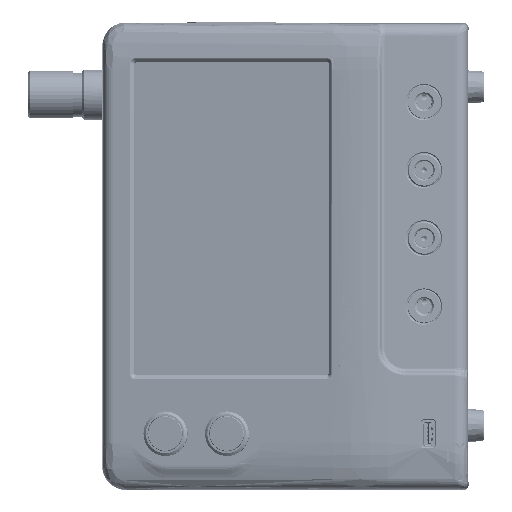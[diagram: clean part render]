
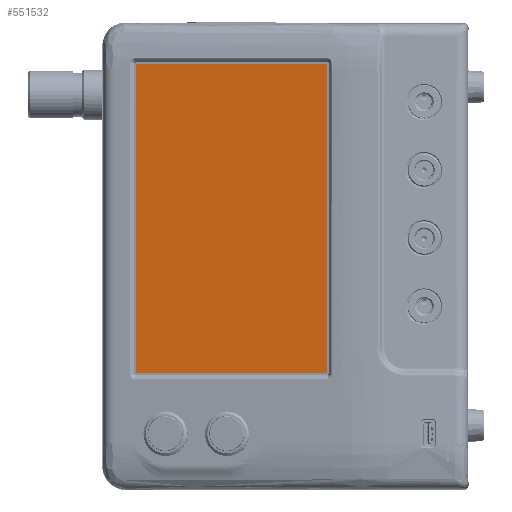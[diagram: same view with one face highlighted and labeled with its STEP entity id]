
A CAD part, left-side view. The second image highlights one B-rep face of the part: STEP entity #551532.
In plain terms, the highlighted planar face has unit normal (-0.985, 0.174, 0) as drawn and (0, 0, 1) by its records, which use the part's own axes.
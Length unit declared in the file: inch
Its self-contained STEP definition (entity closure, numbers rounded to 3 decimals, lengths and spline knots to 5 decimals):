
#61691 = VERTEX_POINT ( 'NONE', #919179 ) ;
#91491 = CARTESIAN_POINT ( 'NONE',  ( 2.12874, 7.37677, 0. ) ) ;
#117250 = ORIENTED_EDGE ( 'NONE', *, *, #151671, .F. ) ;
#128541 = CARTESIAN_POINT ( 'NONE',  ( -2.12874, 7.37677, 0. ) ) ;
#151671 = EDGE_CURVE ( 'NONE', #823270, #826859, #429270, .T. ) ;
#183888 = VECTOR ( 'NONE', #408813, 39.37008 ) ;
#207606 = EDGE_CURVE ( 'NONE', #218442, #823270, #941740, .T. ) ;
#218442 = VERTEX_POINT ( 'NONE', #899967 ) ;
#267252 = ORIENTED_EDGE ( 'NONE', *, *, #207606, .F. ) ;
#271914 = ORIENTED_EDGE ( 'NONE', *, *, #950474, .F. ) ;
#300037 = LINE ( 'NONE', #128541, #973684 ) ;
#392155 = CARTESIAN_POINT ( 'NONE',  ( -2.12874, 0.57677, 0. ) ) ;
#408813 = DIRECTION ( 'NONE',  ( 0., -1., 0. ) ) ;
#420570 = VECTOR ( 'NONE', #702438, 39.37008 ) ;
#429270 = LINE ( 'NONE', #91491, #183888 ) ;
#439543 = ORIENTED_EDGE ( 'NONE', *, *, #983059, .F. ) ;
#445343 = EDGE_LOOP ( 'NONE', ( #117250, #267252, #271914, #439543 ) ) ;
#467419 = DIRECTION ( 'NONE',  ( 1., 0., 0. ) ) ;
#544476 = DIRECTION ( 'NONE',  ( 0., 1., 0. ) ) ;
#551532 = ADVANCED_FACE ( 'NONE', ( #945918 ), #706611, .T. ) ;
#577742 = LINE ( 'NONE', #392155, #783403 ) ;
#582834 = DIRECTION ( 'NONE',  ( -1., 0., 0. ) ) ;
#593324 = AXIS2_PLACEMENT_3D ( 'NONE', #696389, #623496, #467419 ) ;
#623496 = DIRECTION ( 'NONE',  ( 0., 0., 1. ) ) ;
#692228 = CARTESIAN_POINT ( 'NONE',  ( -2.12874, 7.37677, 0. ) ) ;
#696389 = CARTESIAN_POINT ( 'NONE',  ( 0., 0., 0. ) ) ;
#702438 = DIRECTION ( 'NONE',  ( 1., 0., 0. ) ) ;
#706611 = PLANE ( 'NONE',  #593324 ) ;
#718867 = CARTESIAN_POINT ( 'NONE',  ( 2.12874, 0.57677, 0. ) ) ;
#783403 = VECTOR ( 'NONE', #582834, 39.37008 ) ;
#823270 = VERTEX_POINT ( 'NONE', #865527 ) ;
#826859 = VERTEX_POINT ( 'NONE', #718867 ) ;
#865527 = CARTESIAN_POINT ( 'NONE',  ( 2.12874, 7.37677, 0. ) ) ;
#899967 = CARTESIAN_POINT ( 'NONE',  ( -2.12874, 7.37677, 0. ) ) ;
#919179 = CARTESIAN_POINT ( 'NONE',  ( -2.12874, 0.57677, 0. ) ) ;
#941740 = LINE ( 'NONE', #692228, #420570 ) ;
#945918 = FACE_OUTER_BOUND ( 'NONE', #445343, .T. ) ;
#950474 = EDGE_CURVE ( 'NONE', #61691, #218442, #300037, .T. ) ;
#973684 = VECTOR ( 'NONE', #544476, 39.37008 ) ;
#983059 = EDGE_CURVE ( 'NONE', #826859, #61691, #577742, .T. ) ;
